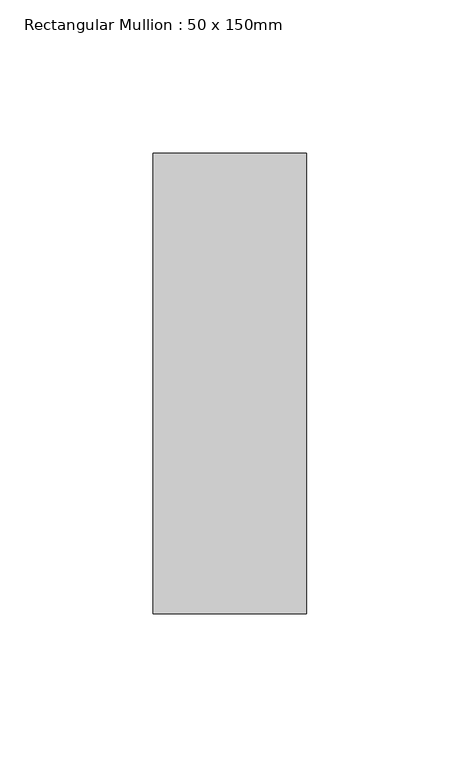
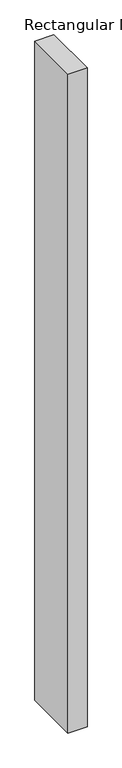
"""IFC4 building model written with IfcOpenShell, lengths in millimetres: member geometry, Rectangular Mullion : 50 x 150mm."""

from ifc_helpers import new_model, si_unit, frame, origin, place, context, project, spatial, polyline, outline, extrude, source, transform, mapped, element, save


def rectangular_mullion_50_x_150mm_ebbf7dca(model_context):
    return source(origin(), model_context, "Body", "SweptSolid", [
        extrude(outline(polyline([(25.0, 75.0), (25.0, -75.0), (-25.0, -75.0), (-25.0, 75.0), (25.0, 75.0)])), frame((0.0, 0.0, -1825.0), z_axis=(0.0, 0.0, 1.0), x_axis=(1.0, 0.0, 0.0)), (0.0, 0.0, 1.0), 1825.0),
    ])


if __name__ == "__main__":
    model = new_model("IFC4")
    model_context = context("Model", 3, world=origin())
    ifc_project = project(units=[si_unit("LENGTHUNIT", "METRE", prefix="MILLI")], contexts=[model_context])
    site = spatial("IfcSite", under=ifc_project)
    building = spatial("IfcBuilding", under=site)
    placement = place(None, origin())
    rectangular_mullion_50_x_150mm_shape = rectangular_mullion_50_x_150mm_ebbf7dca(model_context)
    element("IfcMember", 1, ObjectType="Rectangular Mullion : 50 x 150mm", at=placement, inside=building, context=model_context, shape_type="MappedRepresentation", body=[
        mapped(rectangular_mullion_50_x_150mm_shape, transform((0.0, 0.0, 0.0), x_axis=(1.0, 0.0, 0.0), y_axis=(0.0, 1.0, 0.0), z_axis=(0.0, 0.0, 1.0))),
    ])
    save(model, "model.ifc")
